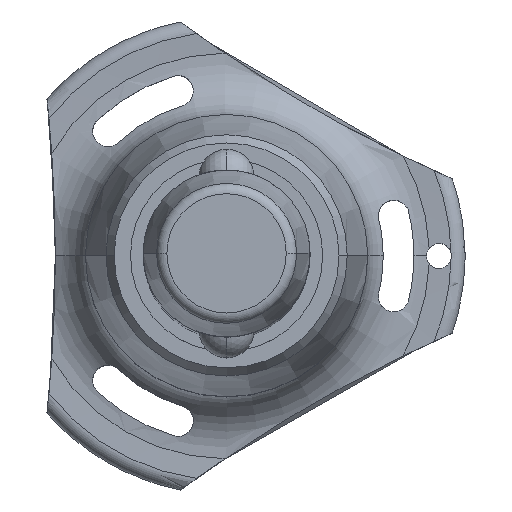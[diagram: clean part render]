
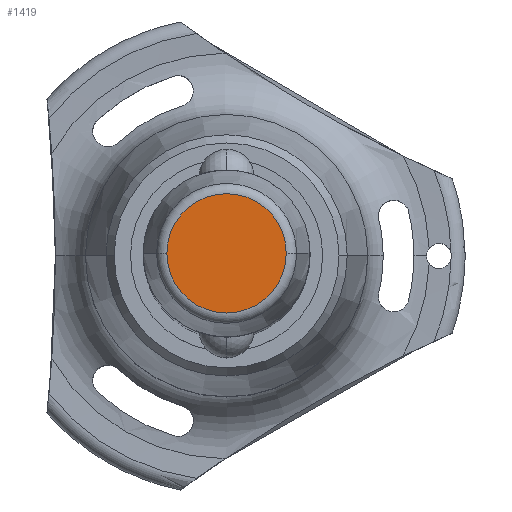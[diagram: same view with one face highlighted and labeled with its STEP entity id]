
A CAD part, top view. The second image highlights one B-rep face of the part: STEP entity #1419.
In plain terms, the highlighted planar face has unit normal (0, 0, 1).
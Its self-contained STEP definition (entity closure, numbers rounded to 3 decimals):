
#59 = AXIS2_PLACEMENT_3D ( 'NONE', #332, #2193, #95 ) ;
#95 = DIRECTION ( 'NONE',  ( 1., 0., 0. ) ) ;
#332 = CARTESIAN_POINT ( 'NONE',  ( 0., 0., 20.5 ) ) ;
#374 = DIRECTION ( 'NONE',  ( 1., 0., 0. ) ) ;
#516 = ORIENTED_EDGE ( 'NONE', *, *, #1925, .T. ) ;
#606 = CIRCLE ( 'NONE', #2228, 7.144 ) ;
#935 = DIRECTION ( 'NONE',  ( 0., 0., 1. ) ) ;
#1036 = AXIS2_PLACEMENT_3D ( 'NONE', #1959, #2684, #374 ) ;
#1161 = CARTESIAN_POINT ( 'NONE',  ( 0., 0., 20.5 ) ) ;
#1246 = PLANE ( 'NONE',  #59 ) ;
#1375 = VERTEX_POINT ( 'NONE', #1452 ) ;
#1419 = ADVANCED_FACE ( 'NONE', ( #2653 ), #1246, .T. ) ;
#1445 = EDGE_LOOP ( 'NONE', ( #516, #2219 ) ) ;
#1452 = CARTESIAN_POINT ( 'NONE',  ( 7.144, 0., 20.5 ) ) ;
#1562 = CARTESIAN_POINT ( 'NONE',  ( -7.144, 0., 20.5 ) ) ;
#1925 = EDGE_CURVE ( 'NONE', #1375, #1970, #2321, .T. ) ;
#1959 = CARTESIAN_POINT ( 'NONE',  ( 0., 0., 20.5 ) ) ;
#1970 = VERTEX_POINT ( 'NONE', #1562 ) ;
#2193 = DIRECTION ( 'NONE',  ( 0., 0., 1. ) ) ;
#2219 = ORIENTED_EDGE ( 'NONE', *, *, #2635, .T. ) ;
#2228 = AXIS2_PLACEMENT_3D ( 'NONE', #1161, #935, #2522 ) ;
#2321 = CIRCLE ( 'NONE', #1036, 7.144 ) ;
#2522 = DIRECTION ( 'NONE',  ( 1., 0., 0. ) ) ;
#2635 = EDGE_CURVE ( 'NONE', #1970, #1375, #606, .T. ) ;
#2653 = FACE_OUTER_BOUND ( 'NONE', #1445, .T. ) ;
#2684 = DIRECTION ( 'NONE',  ( 0., 0., 1. ) ) ;
